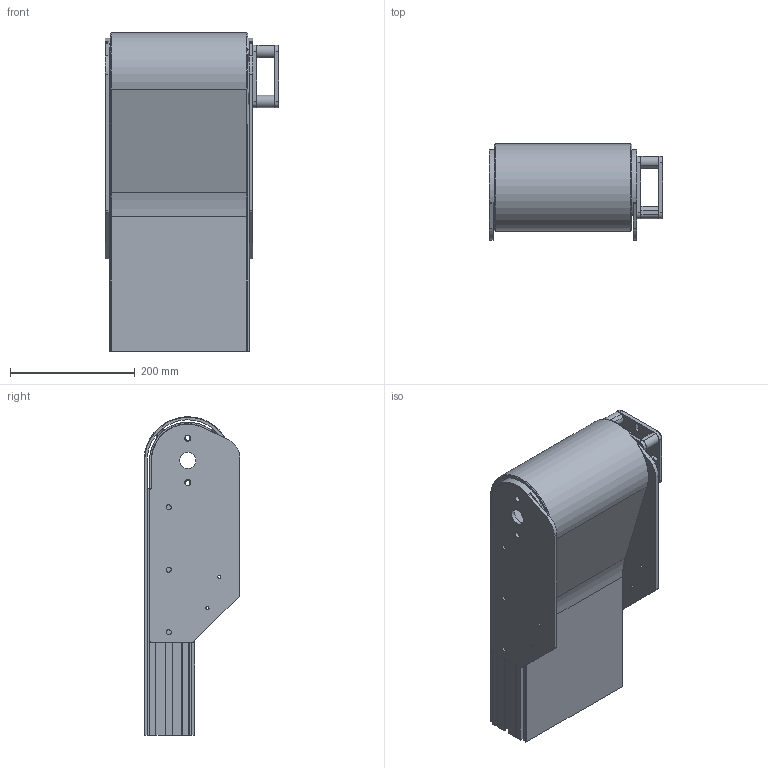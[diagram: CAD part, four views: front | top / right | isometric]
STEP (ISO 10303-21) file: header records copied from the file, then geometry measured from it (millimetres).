
FILE_DESCRIPTION(/* description */ (''),/* implementation_level */ '2;1');
FILE_NAME(/* name */ 'C:\Users\mikael.ljungberg\OneDrive - Carryline AB\Skrivbordet\Tillfalliga_filer\220-30-xLx-xxx.stp',/* time_stamp */ '2021-04-26T07:26:35+02:00',/* author */ ('ML'),/* organization */ (''),/* preprocessor_version */ 'ST-DEVELOPER v18.1',/* originating_system */ 'Autodesk Inventor 2020',/* authorisation */ '');
FILE_SCHEMA (('AUTOMOTIVE_DESIGN { 1 0 10303 214 3 1 1 }'));
Length unit declared in the file: millimetre
Products named in the file (11): 220-30-xLx-xxx; 220-30-HLx-1-XX; Serie 220 Drivände; 220-1000+220-2000-01; 900-3000R; 900-3000L; 900-2100R; 900-2100L; 900-3075; 900-3077; 900-3150
Assembly tree (13 placements, depth 4):
  220-30-xLx-xxx
    220-30-HLx-1-XX
      Serie 220 Drivände
        220-1000+220-2000-01
        900-3000R
        900-3000L
      900-2100R
      900-2100L
      900-3075
      900-3077
      900-3150  x4
Bounding box: 277 x 153.5 x 509.98 mm (x, y, z)
Volume: 8283655.7 mm3; surface area: 834984.5 mm2
Topology: 11 solids, 11 shells, 298 faces, 828 edges, 550 vertices
Faces by surface type: plane 158, cylinder 102, cone 22, torus 16
Full cylindrical faces by diameter (mm): 5 x8, 6.647 x4, 8 x6, 8.5 x8, 10 x8, 26 x3, 37 x1, 45 x2
Entity records: 9243 total; most frequent: CARTESIAN_POINT 1618, DIRECTION 1543, ORIENTED_EDGE 1476, EDGE_CURVE 738, AXIS2_PLACEMENT_3D 530, VERTEX_POINT 493, LINE 483, VECTOR 483
